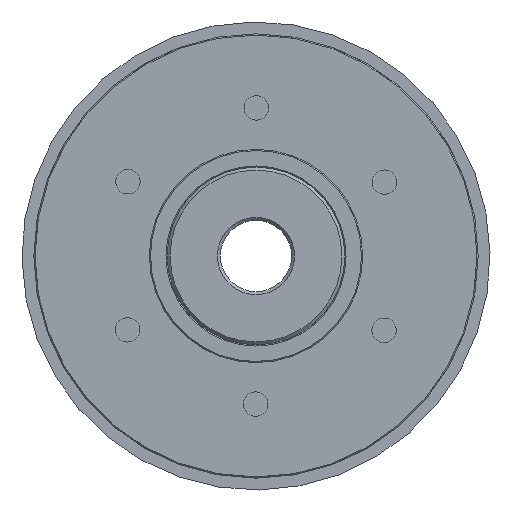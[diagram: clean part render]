
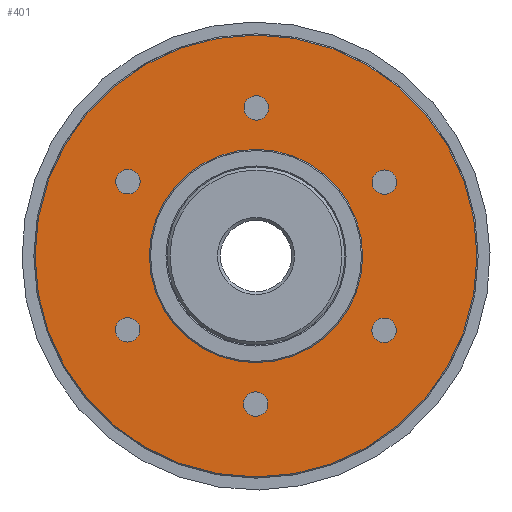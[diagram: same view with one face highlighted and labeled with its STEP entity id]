
A CAD part, left-side view. The second image highlights one B-rep face of the part: STEP entity #401.
In plain terms, the highlighted planar face has unit normal (-1, 0, 0).
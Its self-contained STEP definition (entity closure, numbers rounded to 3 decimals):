
#401 = ADVANCED_FACE( '', ( #807, #808, #809, #810, #811, #812, #813, #814 ), #815, .T. );
#807 = FACE_BOUND( '', #1293, .T. );
#808 = FACE_BOUND( '', #1294, .T. );
#809 = FACE_BOUND( '', #1295, .T. );
#810 = FACE_BOUND( '', #1296, .T. );
#811 = FACE_BOUND( '', #1297, .T. );
#812 = FACE_BOUND( '', #1298, .T. );
#813 = FACE_OUTER_BOUND( '', #1299, .T. );
#814 = FACE_BOUND( '', #1300, .T. );
#815 = PLANE( '', #1301 );
#1293 = EDGE_LOOP( '', ( #1869 ) );
#1294 = EDGE_LOOP( '', ( #1870 ) );
#1295 = EDGE_LOOP( '', ( #1871 ) );
#1296 = EDGE_LOOP( '', ( #1872 ) );
#1297 = EDGE_LOOP( '', ( #1873 ) );
#1298 = EDGE_LOOP( '', ( #1874 ) );
#1299 = EDGE_LOOP( '', ( #1875 ) );
#1300 = EDGE_LOOP( '', ( #1876 ) );
#1301 = AXIS2_PLACEMENT_3D( '', #1877, #1878, #1879 );
#1869 = ORIENTED_EDGE( '', *, *, #2419, .T. );
#1870 = ORIENTED_EDGE( '', *, *, #2438, .T. );
#1871 = ORIENTED_EDGE( '', *, *, #2484, .T. );
#1872 = ORIENTED_EDGE( '', *, *, #2485, .T. );
#1873 = ORIENTED_EDGE( '', *, *, #2364, .T. );
#1874 = ORIENTED_EDGE( '', *, *, #2486, .T. );
#1875 = ORIENTED_EDGE( '', *, *, #2442, .T. );
#1876 = ORIENTED_EDGE( '', *, *, #2487, .F. );
#1877 = CARTESIAN_POINT( '', ( 13., 0., 18. ) );
#1878 = DIRECTION( '', ( -1., 0., 0. ) );
#1879 = DIRECTION( '', ( 0., 0., 1. ) );
#2364 = EDGE_CURVE( '', #2657, #2657, #2658, .T. );
#2419 = EDGE_CURVE( '', #2749, #2749, #2750, .T. );
#2438 = EDGE_CURVE( '', #2779, #2779, #2780, .T. );
#2442 = EDGE_CURVE( '', #2785, #2785, #2786, .T. );
#2484 = EDGE_CURVE( '', #2848, #2848, #2849, .T. );
#2485 = EDGE_CURVE( '', #2850, #2850, #2851, .T. );
#2486 = EDGE_CURVE( '', #2852, #2852, #2853, .T. );
#2487 = EDGE_CURVE( '', #2854, #2854, #2855, .T. );
#2657 = VERTEX_POINT( '', #3154 );
#2658 = CIRCLE( '', #3155, 2.067 );
#2749 = VERTEX_POINT( '', #3267 );
#2750 = CIRCLE( '', #3268, 2.067 );
#2779 = VERTEX_POINT( '', #3402 );
#2780 = CIRCLE( '', #3403, 2.067 );
#2785 = VERTEX_POINT( '', #3408 );
#2786 = CIRCLE( '', #3409, 37.3 );
#2848 = VERTEX_POINT( '', #3645 );
#2849 = CIRCLE( '', #3646, 2.067 );
#2850 = VERTEX_POINT( '', #3647 );
#2851 = CIRCLE( '', #3648, 2.067 );
#2852 = VERTEX_POINT( '', #3649 );
#2853 = CIRCLE( '', #3650, 2.067 );
#2854 = VERTEX_POINT( '', #3651 );
#2855 = CIRCLE( '', #3652, 18. );
#3154 = CARTESIAN_POINT( '', ( 13., -23.441, 13.534 ) );
#3155 = AXIS2_PLACEMENT_3D( '', #3978, #3979, #3980 );
#3267 = CARTESIAN_POINT( '', ( 13., 23.441, 13.534 ) );
#3268 = AXIS2_PLACEMENT_3D( '', #4056, #4057, #4058 );
#3402 = CARTESIAN_POINT( '', ( 13., 23.441, -13.534 ) );
#3403 = AXIS2_PLACEMENT_3D( '', #4083, #4084, #4085 );
#3408 = CARTESIAN_POINT( '', ( 13., 0., 37.3 ) );
#3409 = AXIS2_PLACEMENT_3D( '', #4089, #4090, #4091 );
#3645 = CARTESIAN_POINT( '', ( 13., 0., -27.067 ) );
#3646 = AXIS2_PLACEMENT_3D( '', #4151, #4152, #4153 );
#3647 = CARTESIAN_POINT( '', ( 13., -23.441, -13.534 ) );
#3648 = AXIS2_PLACEMENT_3D( '', #4154, #4155, #4156 );
#3649 = CARTESIAN_POINT( '', ( 13., 0., 27.067 ) );
#3650 = AXIS2_PLACEMENT_3D( '', #4157, #4158, #4159 );
#3651 = CARTESIAN_POINT( '', ( 13., 0., 18. ) );
#3652 = AXIS2_PLACEMENT_3D( '', #4160, #4161, #4162 );
#3978 = CARTESIAN_POINT( '', ( 13., -21.651, 12.5 ) );
#3979 = DIRECTION( '', ( 1., 0., 0. ) );
#3980 = DIRECTION( '', ( 0., -0.866, 0.5 ) );
#4056 = CARTESIAN_POINT( '', ( 13., 21.651, 12.5 ) );
#4057 = DIRECTION( '', ( 1., 0., 0. ) );
#4058 = DIRECTION( '', ( 0., 0.866, 0.5 ) );
#4083 = CARTESIAN_POINT( '', ( 13., 21.651, -12.5 ) );
#4084 = DIRECTION( '', ( 1., 0., 0. ) );
#4085 = DIRECTION( '', ( 0., 0.866, -0.5 ) );
#4089 = CARTESIAN_POINT( '', ( 13., 0., 0. ) );
#4090 = DIRECTION( '', ( -1., 0., 0. ) );
#4091 = DIRECTION( '', ( 0., 0., 1. ) );
#4151 = CARTESIAN_POINT( '', ( 13., 0., -25. ) );
#4152 = DIRECTION( '', ( 1., 0., 0. ) );
#4153 = DIRECTION( '', ( 0., 0., -1. ) );
#4154 = CARTESIAN_POINT( '', ( 13., -21.651, -12.5 ) );
#4155 = DIRECTION( '', ( 1., 0., 0. ) );
#4156 = DIRECTION( '', ( 0., -0.866, -0.5 ) );
#4157 = CARTESIAN_POINT( '', ( 13., 0., 25. ) );
#4158 = DIRECTION( '', ( 1., 0., 0. ) );
#4159 = DIRECTION( '', ( 0., 0., 1. ) );
#4160 = CARTESIAN_POINT( '', ( 13., 0., 0. ) );
#4161 = DIRECTION( '', ( -1., 0., 0. ) );
#4162 = DIRECTION( '', ( 0., 0., 1. ) );
